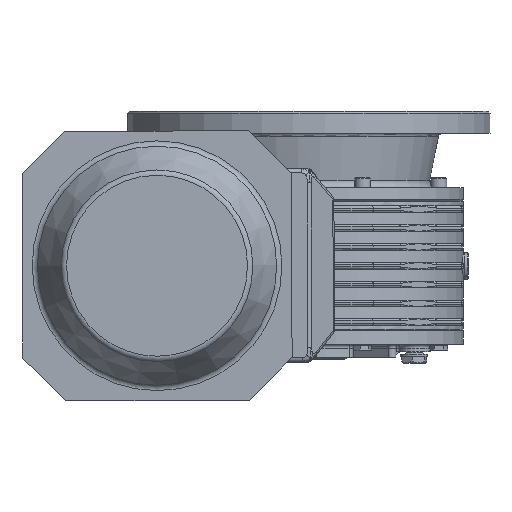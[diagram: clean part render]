
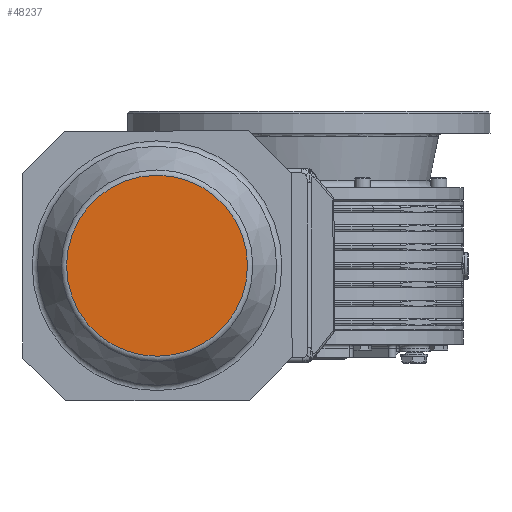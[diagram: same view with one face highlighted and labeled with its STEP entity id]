
A CAD part, left-side view. The second image highlights one B-rep face of the part: STEP entity #48237.
In plain terms, the highlighted planar face has unit normal (-1, 0, 0) as drawn and (1, 0, 0) by its records, which use the part's own axes.
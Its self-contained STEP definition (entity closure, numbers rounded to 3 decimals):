
#48217=CARTESIAN_POINT('',(361.0,0.,74.576));
#48218=VERTEX_POINT('',#48217);
#48219=CARTESIAN_POINT('',(361.0,0.0,0.));
#48220=DIRECTION('',(-1.0,0.0,0.0));
#48221=DIRECTION('',(0.0,0.0,-1.0));
#48222=AXIS2_PLACEMENT_3D('',#48219,#48220,#48221);
#48223=CIRCLE('',#48222,74.576);
#48224=EDGE_CURVE('',#48218,#48218,#48223,.T.);
#48229=CARTESIAN_POINT('',(361.0,0.0,38.75));
#48230=DIRECTION('',(1.0,0.0,0.0));
#48231=DIRECTION('',(0.0,0.0,-1.0));
#48232=AXIS2_PLACEMENT_3D('',#48229,#48230,#48231);
#48233=PLANE('',#48232);
#48234=ORIENTED_EDGE('',*,*,#48224,.F.);
#48235=EDGE_LOOP('',(#48234));
#48236=FACE_OUTER_BOUND('',#48235,.T.);
#48237=ADVANCED_FACE('',(#48236),#48233,.T.);
